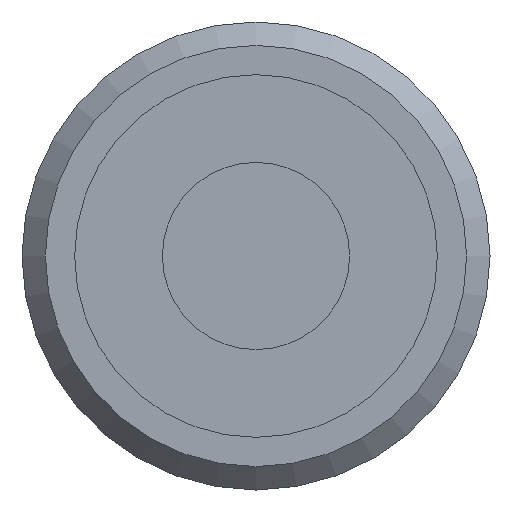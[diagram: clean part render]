
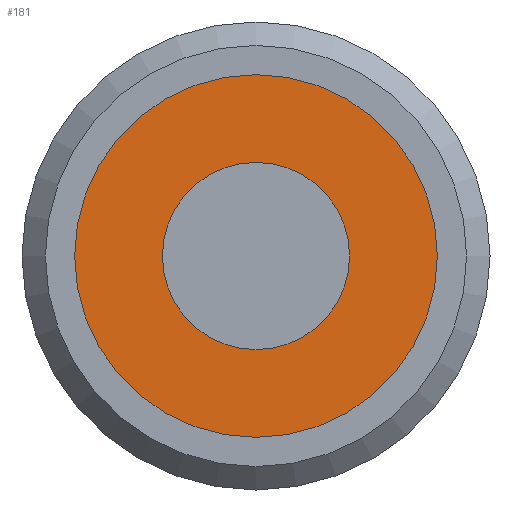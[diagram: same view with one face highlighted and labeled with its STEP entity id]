
A CAD part, front view. The second image highlights one B-rep face of the part: STEP entity #181.
In plain terms, the highlighted planar face has unit normal (0, -1, 0).
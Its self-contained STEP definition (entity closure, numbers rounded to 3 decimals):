
#46=FACE_BOUND('',#68,.T.);
#50=FACE_OUTER_BOUND('',#67,.T.);
#67=EDGE_LOOP('',(#138));
#68=EDGE_LOOP('',(#139));
#83=CIRCLE('',#215,7.75);
#84=CIRCLE('',#217,4.);
#96=VERTEX_POINT('',#315);
#97=VERTEX_POINT('',#319);
#110=EDGE_CURVE('',#96,#96,#83,.T.);
#112=EDGE_CURVE('',#97,#97,#84,.T.);
#138=ORIENTED_EDGE('',*,*,#110,.T.);
#139=ORIENTED_EDGE('',*,*,#112,.T.);
#171=PLANE('',#218);
#181=ADVANCED_FACE('',(#50,#46),#171,.T.);
#215=AXIS2_PLACEMENT_3D('',#317,#251,#252);
#217=AXIS2_PLACEMENT_3D('',#321,#256,#257);
#218=AXIS2_PLACEMENT_3D('',#322,#258,#259);
#251=DIRECTION('center_axis',(0.,-1.,0.));
#252=DIRECTION('ref_axis',(-1.,0.,0.));
#256=DIRECTION('center_axis',(0.,1.,0.));
#257=DIRECTION('ref_axis',(-1.,0.,0.));
#258=DIRECTION('center_axis',(0.,-1.,0.));
#259=DIRECTION('ref_axis',(0.,0.,-1.));
#315=CARTESIAN_POINT('',(7.75,450.,0.));
#317=CARTESIAN_POINT('Origin',(0.,450.,0.));
#319=CARTESIAN_POINT('',(4.,450.,0.));
#321=CARTESIAN_POINT('Origin',(0.,450.,0.));
#322=CARTESIAN_POINT('Origin',(0.,450.,0.));
